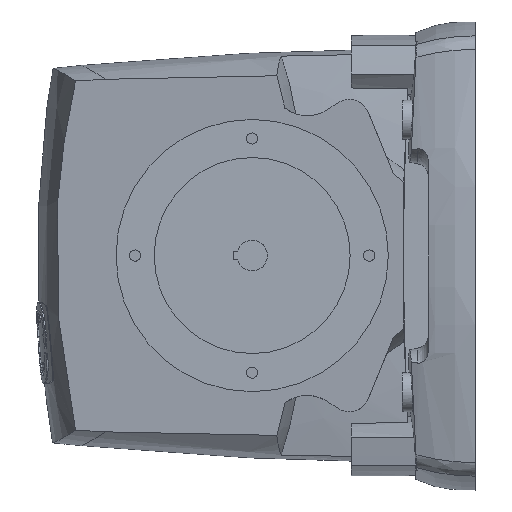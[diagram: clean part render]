
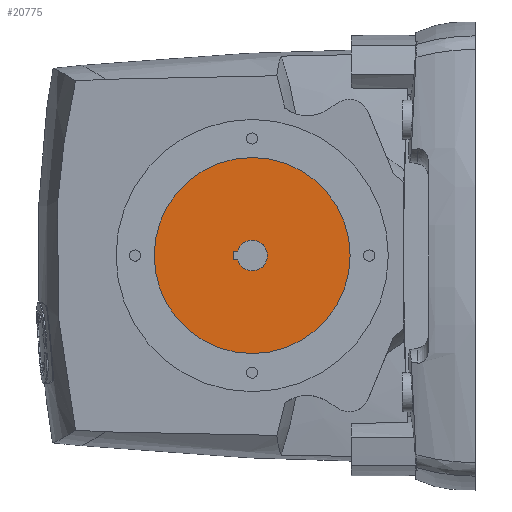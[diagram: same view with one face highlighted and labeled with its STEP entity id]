
A CAD part, left-side view. The second image highlights one B-rep face of the part: STEP entity #20775.
In plain terms, the highlighted planar face has unit normal (-1, 0, 0).
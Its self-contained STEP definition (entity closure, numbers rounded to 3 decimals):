
#7667=CARTESIAN_POINT('',(-444.1,71.934,186.364));
#7668=DIRECTION('',(-1.,0.,0.));
#7669=DIRECTION('',(0.,1.,0.));
#7670=AXIS2_PLACEMENT_3D('',#7667,#7668,#7669);
#7680=CARTESIAN_POINT('',(-444.1,71.934,186.364));
#7681=DIRECTION('',(1.,0.,0.));
#7682=DIRECTION('',(0.,1.,0.));
#7683=AXIS2_PLACEMENT_3D('',#7680,#7681,#7682);
#7685=DIRECTION('',(0.,1.,0.));
#7686=VECTOR('',#7685,3.884);
#7687=CARTESIAN_POINT('',(-444.1,85.35,190.364));
#7688=LINE('',#7687,#7686);
#7689=DIRECTION('',(0.,0.,-1.));
#7690=VECTOR('',#7689,8.);
#7691=CARTESIAN_POINT('',(-444.1,89.234,190.364));
#7692=LINE('',#7691,#7690);
#7693=DIRECTION('',(0.,-1.,0.));
#7694=VECTOR('',#7693,3.884);
#7695=CARTESIAN_POINT('',(-444.1,89.234,182.364));
#7696=LINE('',#7695,#7694);
#7697=CARTESIAN_POINT('',(-444.1,71.934,186.364));
#7698=DIRECTION('',(-1.,0.,0.));
#7699=DIRECTION('',(0.,0.958,-0.286));
#7700=AXIS2_PLACEMENT_3D('',#7697,#7698,#7699);
#9906=CARTESIAN_POINT('',(-444.1,161.934,186.364));
#9908=VERTEX_POINT('',#9906);
#9914=CARTESIAN_POINT('',(-444.1,-18.066,
186.364));
#9916=VERTEX_POINT('',#9914);
#9930=CARTESIAN_POINT('',(-444.1,85.35,190.364));
#9931=CARTESIAN_POINT('',(-444.1,89.234,190.364));
#9932=VERTEX_POINT('',#9930);
#9933=VERTEX_POINT('',#9931);
#9934=CARTESIAN_POINT('',(-444.1,89.234,182.364));
#9935=VERTEX_POINT('',#9934);
#9936=CARTESIAN_POINT('',(-444.1,85.35,182.364));
#9937=VERTEX_POINT('',#9936);
#20756=CARTESIAN_POINT('',(-444.1,71.934,
186.364));
#20757=DIRECTION('',(-1.,0.,0.));
#20758=DIRECTION('',(0.,-1.,0.));
#20759=AXIS2_PLACEMENT_3D('',#20756,#20757,#20758);
#20760=PLANE('',#20759);
#20761=ORIENTED_EDGE('',*,*,#20751,.T.);
#20762=ORIENTED_EDGE('',*,*,#20735,.F.);
#20763=EDGE_LOOP('',(#20761,#20762));
#20764=FACE_OUTER_BOUND('',#20763,.F.);
#20766=ORIENTED_EDGE('',*,*,#20765,.T.);
#20768=ORIENTED_EDGE('',*,*,#20767,.T.);
#20770=ORIENTED_EDGE('',*,*,#20769,.T.);
#20772=ORIENTED_EDGE('',*,*,#20771,.T.);
#20773=EDGE_LOOP('',(#20766,#20768,#20770,#20772));
#20774=FACE_BOUND('',#20773,.F.);
#20775=ADVANCED_FACE('',(#20764,#20774),#20760,.T.);
#7671=CIRCLE('',#7670,90.);
#7684=CIRCLE('',#7683,90.);
#7701=CIRCLE('',#7700,14.);
#20735=EDGE_CURVE('',#9908,#9916,#7671,.T.);
#20751=EDGE_CURVE('',#9908,#9916,#7684,.T.);
#20765=EDGE_CURVE('',#9932,#9933,#7688,.T.);
#20767=EDGE_CURVE('',#9933,#9935,#7692,.T.);
#20769=EDGE_CURVE('',#9935,#9937,#7696,.T.);
#20771=EDGE_CURVE('',#9937,#9932,#7701,.T.);
